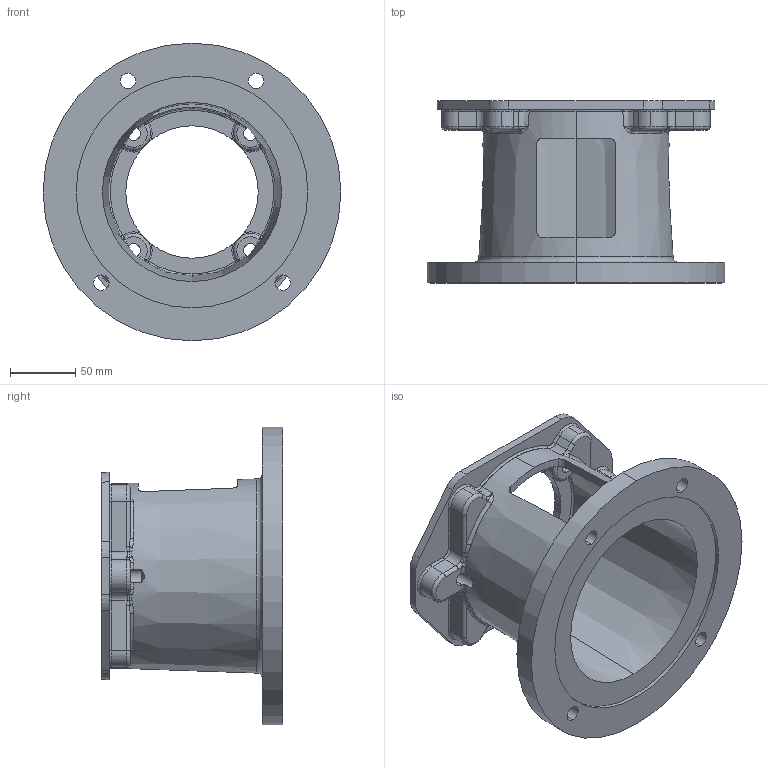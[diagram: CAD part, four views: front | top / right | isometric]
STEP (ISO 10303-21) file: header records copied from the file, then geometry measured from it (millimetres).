
FILE_DESCRIPTION (( 'STEP AP203' ), '1' );
FILE_NAME ('E700552B.STEP', '2014-11-04T13:01:34', ( '' ), ( '' ), 'SwSTEP 2.0', 'SolidWorks 2014', '' );
FILE_SCHEMA (( 'CONFIG_CONTROL_DESIGN' ));
Length unit declared in the file: inch
Products named in the file (1): E700552B
Bounding box: 228.6 x 139.7 x 228.6 mm (x, y, z)
Volume: 876019.8 mm3; surface area: 213604.3 mm2
Topology: 1 solids, 1 shells, 304 faces, 800 edges, 473 vertices
Faces by surface type: torus 87, cylinder 74, bspline 64, plane 43, cone 20, sphere 16
Entity records: 12361 total; most frequent: CARTESIAN_POINT 5240, ORIENTED_EDGE 1560, DIRECTION 1466, EDGE_CURVE 780, AXIS2_PLACEMENT_3D 661, VERTEX_POINT 473, CIRCLE 420, EDGE_LOOP 323
